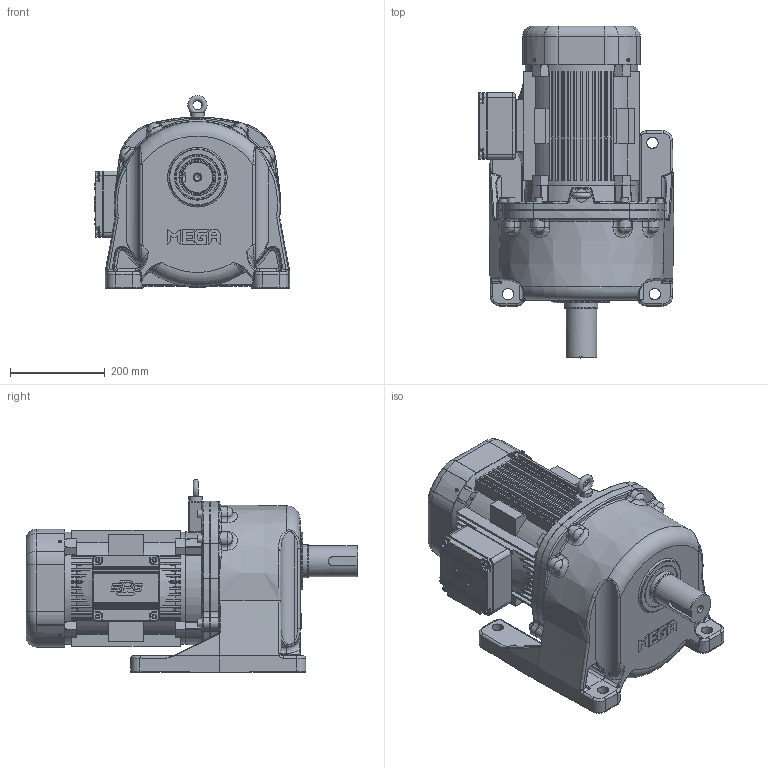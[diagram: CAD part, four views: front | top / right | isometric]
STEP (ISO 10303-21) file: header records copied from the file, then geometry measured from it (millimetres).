
FILE_DESCRIPTION(/* description */ (''),/* implementation_level */ '2;1');
FILE_NAME(/* name */ 'Z:\동력 3D 파일\PML235_5.5kW_3D.stp',/* time_stamp */ '2021-11-30T16:27:03+09:00',/* author */ ('jaebok'),/* organization */ (''),/* preprocessor_version */ 'ST-DEVELOPER v18.1',/* originating_system */ 'Autodesk Inventor 2022',/* authorisation */ '');
FILE_SCHEMA (('AUTOMOTIVE_DESIGN { 1 0 10303 214 3 1 1 }'));
Length unit declared in the file: millimetre
Products named in the file (1): 부품24
Bounding box: 412.9 x 701 x 407.5 mm (x, y, z)
Volume: 14296573.2 mm3; surface area: 2439222 mm2
Topology: 3 solids, 30 shells, 4364 faces, 10933 edges, 6668 vertices
Faces by surface type: plane 1364, bspline 1324, cylinder 914, torus 426, cone 204, sphere 132
Full cylindrical faces by diameter (mm): 4.134 x4, 4.917 x9, 5 x16, 6 x9, 6.5 x8, 6.647 x17, 7 x4, 8 x4, 8.376 x1, 9.5 x4, 10 x20, 10.106 x1, 12 x9, 13 x8, 13.2 x1, 13.835 x1, 15 x1, 16 x8, 20 x1, 24 x4, 28 x1, 32 x1, 34 x2, 50 x2, 55 x1, 60 x1, 62 x1, 65 x1, 70 x5, 72 x1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
Entity records: 164749 total; most frequent: CARTESIAN_POINT 64158, ORIENTED_EDGE 21508, DIRECTION 17685, EDGE_CURVE 10754, AXIS2_PLACEMENT_3D 6708, VERTEX_POINT 6663, EDGE_LOOP 4711, FACE_OUTER_BOUND 4364
